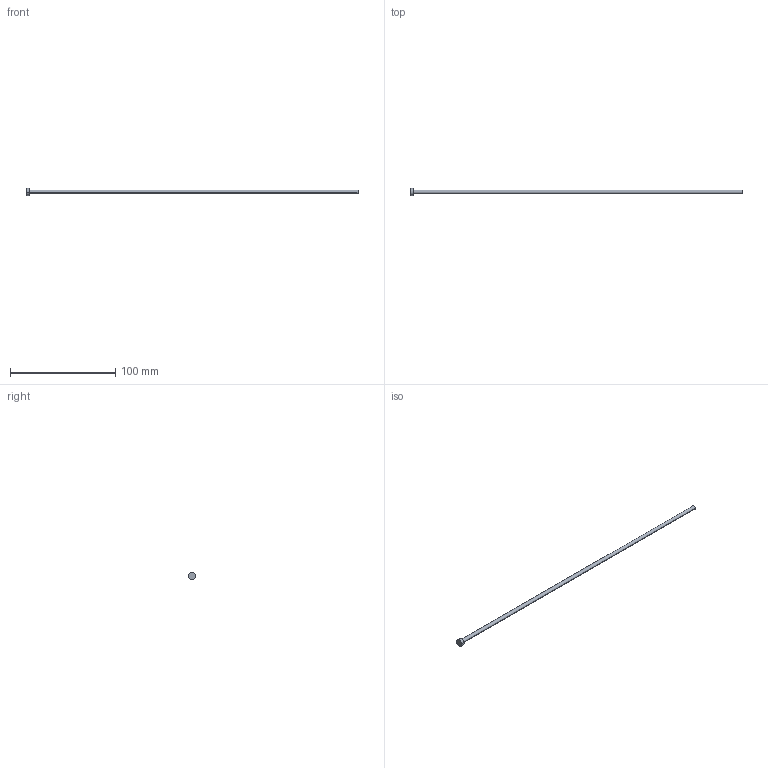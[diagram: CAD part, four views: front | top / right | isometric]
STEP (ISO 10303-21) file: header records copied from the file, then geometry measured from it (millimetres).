
FILE_DESCRIPTION (( 'STEP AP214' ), '1' );
FILE_NAME ('A-3,7x250.STEP', '2020-05-28T17:35:56', ( 'August' ), ( '' ), 'SwSTEP 2.0', 'SolidWorks 2018', '' );
FILE_SCHEMA (( 'AUTOMOTIVE_DESIGN' ));
Length unit declared in the file: millimetre
Products named in the file (1): A-3,7x250
Bounding box: 315 x 7 x 7 mm (x, y, z)
Volume: 3470.3 mm3; surface area: 3768.1 mm2
Topology: 1 solids, 1 shells, 9 faces, 16 edges, 10 vertices
Faces by surface type: cylinder 4, plane 3, torus 2
Entity records: 260 total; most frequent: DIRECTION 48, CARTESIAN_POINT 36, ORIENTED_EDGE 32, AXIS2_PLACEMENT_3D 22, EDGE_CURVE 16, CIRCLE 12, EDGE_LOOP 10, VERTEX_POINT 10
